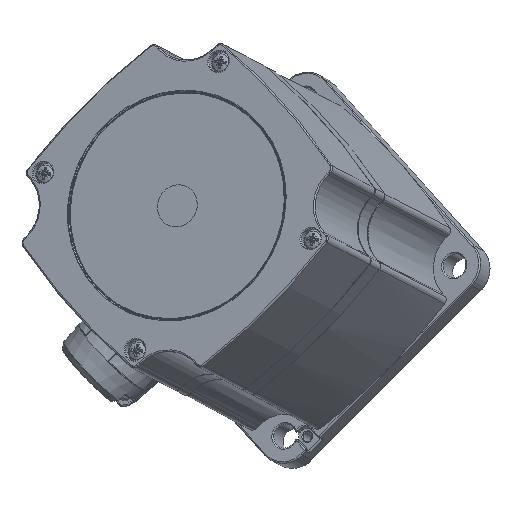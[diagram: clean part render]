
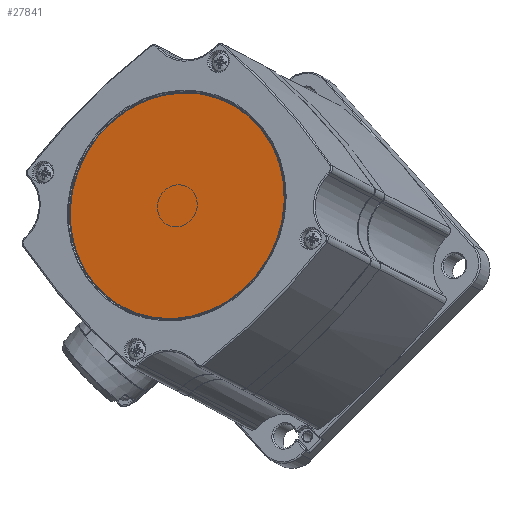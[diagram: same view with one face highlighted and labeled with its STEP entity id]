
A CAD part, top view. The second image highlights one B-rep face of the part: STEP entity #27841.
In plain terms, the highlighted planar face has unit normal (-0.366, 0.191, 0.911).
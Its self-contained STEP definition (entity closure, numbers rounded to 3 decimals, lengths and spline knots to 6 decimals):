
#4472=PLANE('',#30659);
#7578=FACE_OUTER_BOUND('',#9142,.T.);
#9142=EDGE_LOOP('',(#24786));
#11241=CIRCLE('',#30660,0.04025);
#13795=VERTEX_POINT('',#52125);
#17608=EDGE_CURVE('',#13795,#13795,#11241,.T.);
#24786=ORIENTED_EDGE('',*,*,#17608,.T.);
#27841=ADVANCED_FACE('',(#7578),#4472,.T.);
#30659=AXIS2_PLACEMENT_3D('',#52124,#37833,#37834);
#30660=AXIS2_PLACEMENT_3D('',#52126,#37835,#37836);
#37833=DIRECTION('center_axis',(-0.366,0.191,0.911));
#37834=DIRECTION('ref_axis',(0.928,0.,0.372));
#37835=DIRECTION('center_axis',(-0.366,0.191,0.911));
#37836=DIRECTION('ref_axis',(-0.93,-0.036,-0.366));
#52124=CARTESIAN_POINT('Origin',(-0.217681,0.152777,-0.075259));
#52125=CARTESIAN_POINT('',(-0.180247,0.154245,-0.060542));
#52126=CARTESIAN_POINT('Origin',(-0.217681,0.152777,-0.075259));
